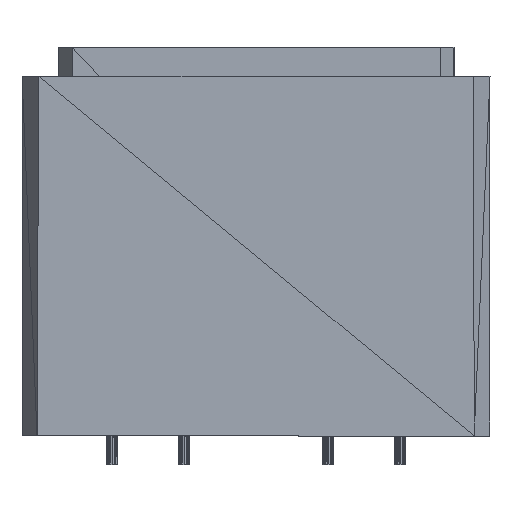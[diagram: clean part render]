
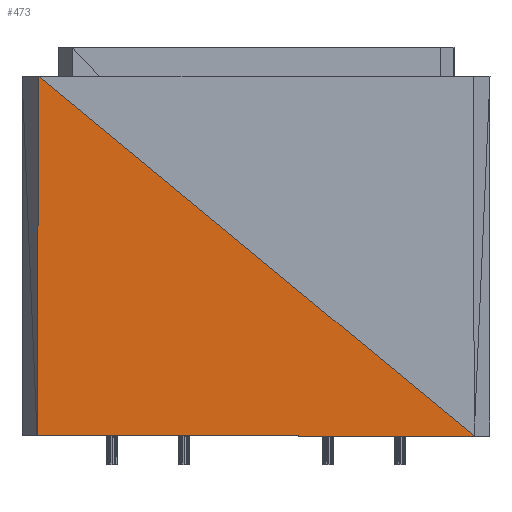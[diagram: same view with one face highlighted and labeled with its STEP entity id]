
A CAD part, left-side view. The second image highlights one B-rep face of the part: STEP entity #473.
In plain terms, the highlighted planar face has unit normal (-1, 0, 0).
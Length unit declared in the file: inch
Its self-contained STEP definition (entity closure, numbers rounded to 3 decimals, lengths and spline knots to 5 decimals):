
#253=CARTESIAN_POINT('',(-0.55,0.60836,0.00012));
#254=VERTEX_POINT('',#253);
#291=CARTESIAN_POINT('',(-0.55,0.60371,1.00012));
#292=VERTEX_POINT('',#291);
#378=CARTESIAN_POINT('',(-0.55,0.60836,0.00012));
#379=DIRECTION('',(0.,-0.005,1.));
#380=VECTOR('',#379,1.00001);
#381=LINE('',#378,#380);
#382=EDGE_CURVE('',#254,#292,#381,.T.);
#451=CARTESIAN_POINT('',(-0.55,0.60371,1.00012));
#452=DIRECTION('',(1.,0.,0.));
#453=DIRECTION('',(0.,1.,0.));
#454=AXIS2_PLACEMENT_3D('',#451,#452,#453);
#455=PLANE('',#454);
#456=ORIENTED_EDGE('',*,*,#382,.F.);
#457=CARTESIAN_POINT('',(-0.55,-0.60604,-0.00012));
#458=VERTEX_POINT('',#457);
#459=CARTESIAN_POINT('',(-0.55,-0.60604,-0.00012));
#460=DIRECTION('',(0.,1.,0.));
#461=VECTOR('',#460,1.2144);
#462=LINE('',#459,#461);
#463=EDGE_CURVE('',#458,#254,#462,.T.);
#464=ORIENTED_EDGE('',*,*,#463,.F.);
#465=CARTESIAN_POINT('',(-0.55,-0.60604,-0.00012));
#466=DIRECTION('',(0.,0.771,0.637));
#467=VECTOR('',#466,1.56971);
#468=LINE('',#465,#467);
#469=EDGE_CURVE('',#458,#292,#468,.T.);
#470=ORIENTED_EDGE('',*,*,#469,.T.);
#471=EDGE_LOOP('',(#456,#464,#470));
#472=FACE_BOUND('',#471,.T.);
#473=ADVANCED_FACE('',(#472),#455,.F.);
